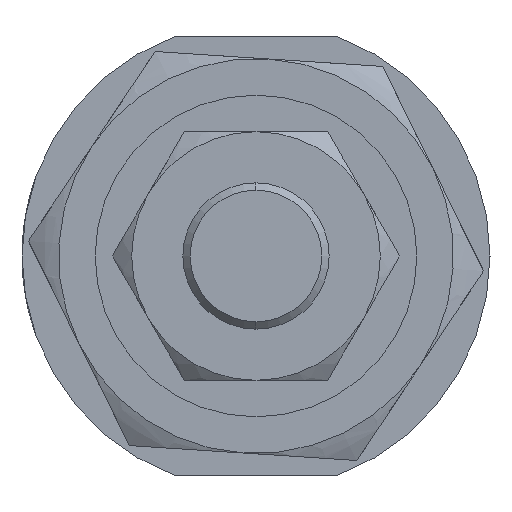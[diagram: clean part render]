
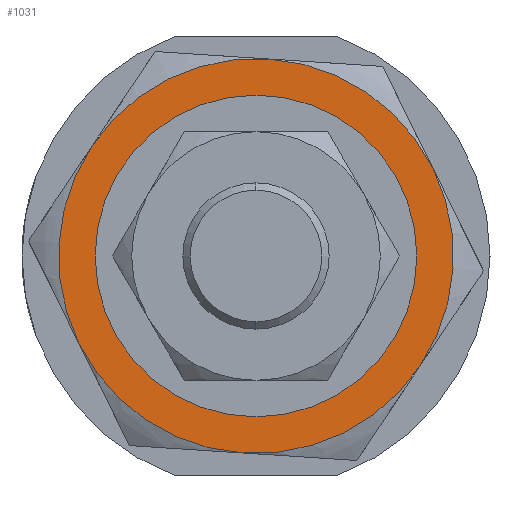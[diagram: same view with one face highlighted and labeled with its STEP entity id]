
A CAD part, left-side view. The second image highlights one B-rep face of the part: STEP entity #1031.
In plain terms, the highlighted planar face has unit normal (-1, 0, 0) as drawn and (0, 0, -1) by its records, which use the part's own axes.
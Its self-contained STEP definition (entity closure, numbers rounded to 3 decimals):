
#2 = DIRECTION ( 'NONE',  ( 1., 0., 0. ) ) ;
#21 = DIRECTION ( 'NONE',  ( 0., 0., 1. ) ) ;
#118 = DIRECTION ( 'NONE',  ( 1., 0., 0. ) ) ;
#188 = CARTESIAN_POINT ( 'NONE',  ( 6.75, -11.691, -5. ) ) ;
#240 = AXIS2_PLACEMENT_3D ( 'NONE', #2162, #1471, #1102 ) ;
#253 = EDGE_CURVE ( 'NONE', #1477, #3332, #3353, .T. ) ;
#279 = ORIENTED_EDGE ( 'NONE', *, *, #2154, .F. ) ;
#283 = AXIS2_PLACEMENT_3D ( 'NONE', #1723, #2673, #1171 ) ;
#378 = CARTESIAN_POINT ( 'NONE',  ( 0., 0., -5. ) ) ;
#397 = ORIENTED_EDGE ( 'NONE', *, *, #3312, .F. ) ;
#413 = EDGE_CURVE ( 'NONE', #3332, #1477, #2005, .T. ) ;
#441 = CARTESIAN_POINT ( 'NONE',  ( -6.75, 11.691, -5. ) ) ;
#483 = AXIS2_PLACEMENT_3D ( 'NONE', #2975, #3251, #2474 ) ;
#501 = CARTESIAN_POINT ( 'NONE',  ( 13.5, 0., -5. ) ) ;
#592 = AXIS2_PLACEMENT_3D ( 'NONE', #663, #1532, #2552 ) ;
#595 = DIRECTION ( 'NONE',  ( 1., 0., 0. ) ) ;
#602 = CARTESIAN_POINT ( 'NONE',  ( -13.5, 0., -5. ) ) ;
#644 = CARTESIAN_POINT ( 'NONE',  ( -6.75, -11.691, -5. ) ) ;
#663 = CARTESIAN_POINT ( 'NONE',  ( 0., 0., -5. ) ) ;
#769 = VERTEX_POINT ( 'NONE', #602 ) ;
#777 = EDGE_LOOP ( 'NONE', ( #3102, #2784 ) ) ;
#806 = CIRCLE ( 'NONE', #283, 13.5 ) ;
#842 = ORIENTED_EDGE ( 'NONE', *, *, #2251, .F. ) ;
#957 = VERTEX_POINT ( 'NONE', #644 ) ;
#1031 = ADVANCED_FACE ( 'NONE', ( #2356, #2471 ), #1629, .F. ) ;
#1064 = DIRECTION ( 'NONE',  ( 1., 0., 0. ) ) ;
#1102 = DIRECTION ( 'NONE',  ( 1., 0., 0. ) ) ;
#1104 = DIRECTION ( 'NONE',  ( 0., 0., 1. ) ) ;
#1130 = EDGE_LOOP ( 'NONE', ( #397, #1269, #2731, #842, #279, #3231 ) ) ;
#1171 = DIRECTION ( 'NONE',  ( 1., 0., 0. ) ) ;
#1248 = CIRCLE ( 'NONE', #2539, 13.5 ) ;
#1269 = ORIENTED_EDGE ( 'NONE', *, *, #2422, .F. ) ;
#1271 = CARTESIAN_POINT ( 'NONE',  ( 0., 0., -5. ) ) ;
#1305 = AXIS2_PLACEMENT_3D ( 'NONE', #1271, #21, #1064 ) ;
#1325 = CARTESIAN_POINT ( 'NONE',  ( 0., 0., -5. ) ) ;
#1348 = DIRECTION ( 'NONE',  ( 0., 0., 1. ) ) ;
#1421 = DIRECTION ( 'NONE',  ( 1., 0., 0. ) ) ;
#1458 = CIRCLE ( 'NONE', #240, 13.5 ) ;
#1468 = CARTESIAN_POINT ( 'NONE',  ( 6.75, 11.691, -5. ) ) ;
#1471 = DIRECTION ( 'NONE',  ( 0., 0., 1. ) ) ;
#1477 = VERTEX_POINT ( 'NONE', #2910 ) ;
#1507 = CIRCLE ( 'NONE', #592, 13.5 ) ;
#1532 = DIRECTION ( 'NONE',  ( 0., 0., 1. ) ) ;
#1629 = PLANE ( 'NONE',  #483 ) ;
#1723 = CARTESIAN_POINT ( 'NONE',  ( 0., 0., -5. ) ) ;
#1803 = VERTEX_POINT ( 'NONE', #441 ) ;
#1916 = CARTESIAN_POINT ( 'NONE',  ( 0., 0., -5. ) ) ;
#1932 = CARTESIAN_POINT ( 'NONE',  ( -10., 0., -5. ) ) ;
#2005 = CIRCLE ( 'NONE', #2191, 10. ) ;
#2008 = CARTESIAN_POINT ( 'NONE',  ( 0., 0., -5. ) ) ;
#2072 = VERTEX_POINT ( 'NONE', #188 ) ;
#2154 = EDGE_CURVE ( 'NONE', #1803, #769, #1507, .T. ) ;
#2162 = CARTESIAN_POINT ( 'NONE',  ( 0., 0., -5. ) ) ;
#2191 = AXIS2_PLACEMENT_3D ( 'NONE', #2008, #1348, #595 ) ;
#2251 = EDGE_CURVE ( 'NONE', #769, #957, #1458, .T. ) ;
#2260 = DIRECTION ( 'NONE',  ( 0., 0., 1. ) ) ;
#2353 = AXIS2_PLACEMENT_3D ( 'NONE', #1325, #3341, #118 ) ;
#2356 = FACE_BOUND ( 'NONE', #777, .T. ) ;
#2422 = EDGE_CURVE ( 'NONE', #2072, #3285, #806, .T. ) ;
#2471 = FACE_OUTER_BOUND ( 'NONE', #1130, .T. ) ;
#2474 = DIRECTION ( 'NONE',  ( 1., 0., 0. ) ) ;
#2505 = CIRCLE ( 'NONE', #1305, 13.5 ) ;
#2539 = AXIS2_PLACEMENT_3D ( 'NONE', #1916, #1104, #1421 ) ;
#2552 = DIRECTION ( 'NONE',  ( 1., 0., 0. ) ) ;
#2673 = DIRECTION ( 'NONE',  ( 0., 0., 1. ) ) ;
#2731 = ORIENTED_EDGE ( 'NONE', *, *, #3148, .F. ) ;
#2784 = ORIENTED_EDGE ( 'NONE', *, *, #413, .T. ) ;
#2910 = CARTESIAN_POINT ( 'NONE',  ( 10., 0., -5. ) ) ;
#2918 = AXIS2_PLACEMENT_3D ( 'NONE', #378, #2260, #2 ) ;
#2975 = CARTESIAN_POINT ( 'NONE',  ( 0., 0., -5. ) ) ;
#2976 = CIRCLE ( 'NONE', #2353, 13.5 ) ;
#3045 = VERTEX_POINT ( 'NONE', #1468 ) ;
#3102 = ORIENTED_EDGE ( 'NONE', *, *, #253, .T. ) ;
#3148 = EDGE_CURVE ( 'NONE', #957, #2072, #1248, .T. ) ;
#3231 = ORIENTED_EDGE ( 'NONE', *, *, #3351, .F. ) ;
#3251 = DIRECTION ( 'NONE',  ( 0., 0., 1. ) ) ;
#3285 = VERTEX_POINT ( 'NONE', #501 ) ;
#3312 = EDGE_CURVE ( 'NONE', #3285, #3045, #2505, .T. ) ;
#3332 = VERTEX_POINT ( 'NONE', #1932 ) ;
#3341 = DIRECTION ( 'NONE',  ( 0., 0., 1. ) ) ;
#3351 = EDGE_CURVE ( 'NONE', #3045, #1803, #2976, .T. ) ;
#3353 = CIRCLE ( 'NONE', #2918, 10. ) ;
